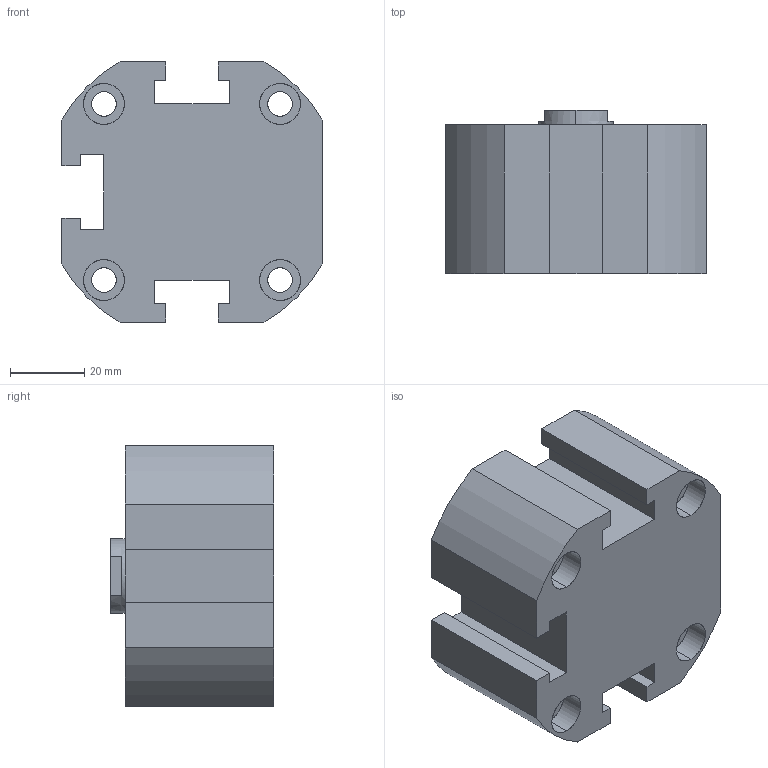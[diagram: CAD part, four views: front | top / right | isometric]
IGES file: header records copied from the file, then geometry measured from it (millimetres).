
Start section: SolidWorks IGES file using analytic representation for surfaces
Global section: file name: C:\Users\Toshiba\Desktop\XC#2-50-10.IGS; native system: SolidWorks 2014; preprocessor: SolidWorks 2014; author: Toshiba; date: 160523.161053; units: millimetre
Bounding box: 70 x 44 x 70 mm (x, y, z)
Surface area: 27314.7 mm2 (no closed solid volume)
Topology: 0 solids, 0 shells, 114 faces, 2042 edges, 2036 vertices
Faces by surface type: revolution 64, bspline 50
